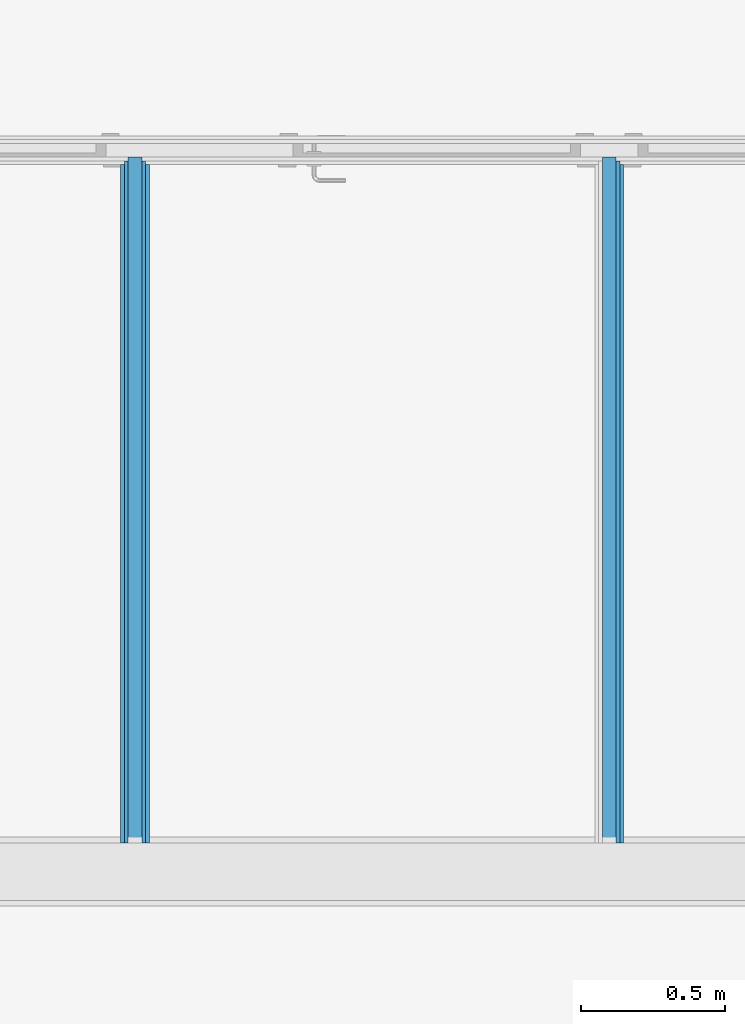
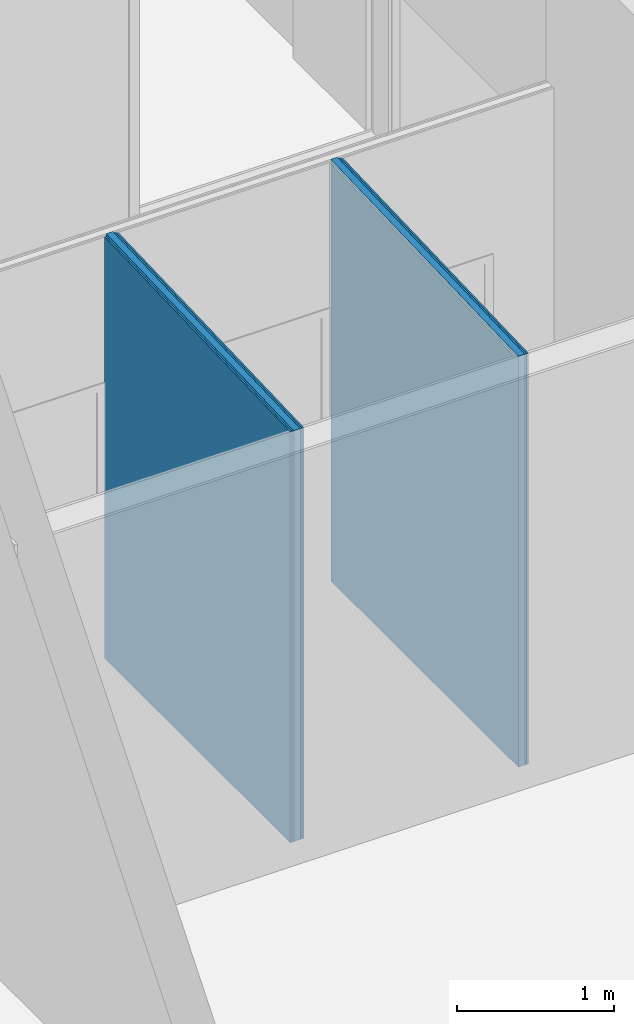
# One storey, part 21 of 34: 8 building element parts, 2 elements without a shape of their own.
"""IFC2X3 building model written with IfcOpenShell, lengths in metres."""

from ifc_helpers import new_model, entity, si_unit, converted_unit, derived_unit, money_unit, direction, frame, origin_with_axes, place, context, subcontext, project, spatial, polyline, outline, extrude, boolean, faceted_brep, material, type_object, element, aggregate, save


model = new_model("IFC2X3")

# Units and contexts
model_context = context("Model", 3, precision=1e-05, world=origin_with_axes(), true_north=direction((0.0, 1.0)))
body_context = subcontext(model_context, "Body", "Model", "MODEL_VIEW")
ifc_project = project(units=[si_unit("LENGTHUNIT", "METRE"), si_unit("AREAUNIT", "SQUARE_METRE"), si_unit("VOLUMEUNIT", "CUBIC_METRE"), converted_unit("PLANEANGLEUNIT", "DEGREE", entity("IfcPlaneAngleMeasure", 0.0174532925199), si_unit("PLANEANGLEUNIT", "RADIAN"), dimensions=[0, 0, 0, 0, 0, 0, 0]), money_unit("CHF"), converted_unit("TIMEUNIT", "Year", entity("IfcTimeMeasure", 31556926.0), si_unit("TIMEUNIT", "SECOND"), dimensions=[0, 0, 1, 0, 0, 0, 0]), si_unit("MASSUNIT", "GRAM", prefix="KILO"), si_unit("THERMODYNAMICTEMPERATUREUNIT", "DEGREE_CELSIUS"), si_unit("LUMINOUSINTENSITYUNIT", "LUMEN"), si_unit("ENERGYUNIT", "JOULE", prefix="MEGA"), derived_unit("THERMALCONDUCTANCEUNIT", [(si_unit("POWERUNIT", "WATT"), 1), (si_unit("LENGTHUNIT", "METRE"), -1), (si_unit("THERMODYNAMICTEMPERATUREUNIT", "KELVIN"), -1)]), derived_unit("SPECIFICHEATCAPACITYUNIT", [(si_unit("ENERGYUNIT", "JOULE"), 1), (si_unit("MASSUNIT", "GRAM", prefix="KILO"), -1), (si_unit("THERMODYNAMICTEMPERATUREUNIT", "KELVIN"), -1)]), derived_unit("MASSDENSITYUNIT", [(si_unit("MASSUNIT", "GRAM", prefix="KILO"), 1), (si_unit("VOLUMEUNIT", "CUBIC_METRE"), -1)])], contexts=[model_context])

# Site, building, storey
site_placement = place(None, origin_with_axes())
site = spatial("IfcSite", under=ifc_project, at=site_placement, Name="Site", CompositionType="ELEMENT")
building_placement = place(site_placement, origin_with_axes())
building = spatial("IfcBuilding", under=site, at=building_placement, Name="Bâtiment", CompositionType="ELEMENT")
storey_placement = place(building_placement, origin_with_axes())
storey = spatial("IfcBuildingStorey", under=building, at=storey_placement, Name="Rez-de-chaussée", CompositionType="ELEMENT", Elevation=0.0)

# Wall, building element parts
wall_type = type_object("IfcWallType", Name="Cloison 100/48 100", PredefinedType="NOTDEFINED")
wall_1_placement = place(storey_placement, frame((22.5794697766, 10.9801256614, 0.0), z_axis=(0.0, 0.0, 1.0), x_axis=(0.0, -1.0, 0.0)))
wall_1 = element("IfcWall", 1, at=wall_1_placement, inside=storey, type_object=wall_type, Name="MUR_EXT-009")
ifc_material_1 = material(Name="Finition int - Plaque de plâtre")
building_element_part_1_placement = place(wall_1_placement, origin_with_axes())
building_element_part_1 = element("IfcBuildingElementPart", 2, at=building_element_part_1_placement, material=ifc_material_1, Name="Finition int - Plaque de plâtre", context=body_context, shape_type="CSG", body=[
    boolean("DIFFERENCE", boolean("DIFFERENCE", boolean("DIFFERENCE", boolean("DIFFERENCE", boolean("DIFFERENCE", extrude(outline(polyline([(0.0, 0.087), (2.68, 0.087), (2.68, 0.1), (0.0, 0.1), (0.0, 0.087)])), origin_with_axes(), (0.0, 0.0, 1.0), 4.0), faceted_brep([(2.46, 0.1, 0.0), (2.46, 0.1, 3.19170439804), (0.1, 0.1, 3.27430439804), (0.1, 0.1, 0.0), (0.0, 0.1, 0.0), (0.0, 0.1, 4.0), (2.68, 0.1, 4.0), (2.68, 0.1, 0.0), (2.46, 0.087, 0.0), (2.46, 0.087, 3.19170439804), (0.1, 0.087, 3.27430439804), (0.1, 0.087, 0.0), (0.0, 0.087, 0.0), (0.0, 0.087, 4.0), (2.68, 0.087, 4.0), (2.68, 0.087, 0.0)], [[[0, 1, 2, 3, 4, 5, 6, 7]], [[1, 0, 8, 9]], [[2, 1, 9, 10]], [[3, 2, 10, 11]], [[3, 11, 12, 4]], [[5, 4, 12, 13]], [[5, 13, 14, 6]], [[14, 15, 7, 6]], [[8, 0, 7, 15]], [[9, 8, 15, 14, 13, 12, 11, 10]]])), faceted_brep([(2.46, 0.087, 3.19170439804), (0.1, 0.087, 3.27430439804), (0.087, 0.087, 3.27475939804), (0.087, 0.087, 0.0), (0.0, 0.087, 0.0), (0.0, 0.087, 4.0), (2.68, 0.087, 4.0), (2.68, 0.087, 0.0), (2.46, 0.087, 0.0), (2.46, 0.074, 3.19170439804), (0.087, 0.074, 3.27475939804), (0.087, 0.074, 0.0), (0.0, 0.074, 0.0), (0.0, 0.074, 4.0), (2.68, 0.074, 4.0), (2.68, 0.074, 0.0), (2.46, 0.074, 0.0)], [[[0, 1, 2, 3, 4, 5, 6, 7, 8]], [[2, 1, 0, 9, 10]], [[3, 2, 10, 11]], [[3, 11, 12, 4]], [[5, 4, 12, 13]], [[5, 13, 14, 6]], [[14, 15, 7, 6]], [[16, 8, 7, 15]], [[0, 8, 16, 9]], [[9, 16, 15, 14, 13, 12, 11, 10]]])), faceted_brep([(2.46, 0.074, 3.19170439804), (0.087, 0.074, 3.27475939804), (0.074, 0.074, 3.27521439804), (0.074, 0.074, 0.0), (0.0, 0.074, 0.0), (0.0, 0.074, 4.0), (2.68, 0.074, 4.0), (2.68, 0.074, 0.0), (2.46, 0.074, 0.0), (2.46, 0.026, 3.19170439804), (0.087, 0.026, 3.27475939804), (0.074, 0.026, 3.27521439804), (0.074, 0.026, 0.0), (0.0, 0.026, 0.0), (0.0, 0.026, 4.0), (2.68, 0.026, 4.0), (2.68, 0.026, 0.0), (2.46, 0.026, 0.0)], [[[0, 1, 2, 3, 4, 5, 6, 7, 8]], [[2, 1, 0, 9, 10, 11]], [[3, 2, 11, 12]], [[3, 12, 13, 4]], [[5, 4, 13, 14]], [[5, 14, 15, 6]], [[15, 16, 7, 6]], [[17, 8, 7, 16]], [[8, 17, 9, 0]], [[9, 17, 16, 15, 14, 13, 12, 11, 10]]])), faceted_brep([(2.46, 0.026, 0.0), (2.46, 0.026, 3.19170439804), (0.087, 0.026, 3.27475939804), (0.087, 0.026, 0.0), (0.0, 0.026, 0.0), (0.0, 0.026, 4.0), (2.68, 0.026, 4.0), (2.68, 0.026, 0.0), (2.46, 0.013, 0.0), (2.46, 0.013, 3.19170439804), (0.1, 0.013, 3.27430439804), (0.087, 0.013, 3.27475939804), (0.087, 0.013, 0.0), (0.0, 0.013, 0.0), (0.0, 0.013, 4.0), (2.68, 0.013, 4.0), (2.68, 0.013, 0.0)], [[[0, 1, 2, 3, 4, 5, 6, 7]], [[0, 8, 9, 1]], [[2, 1, 9, 10, 11]], [[3, 2, 11, 12]], [[3, 12, 13, 4]], [[5, 4, 13, 14]], [[5, 14, 15, 6]], [[15, 16, 7, 6]], [[8, 0, 7, 16]], [[9, 8, 16, 15, 14, 13, 12, 11, 10]]])), faceted_brep([(2.46, 0.013, 0.0), (2.46, 0.013, 3.19170439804), (0.1, 0.013, 3.27430439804), (0.1, 0.013, 0.0), (0.0, 0.013, 0.0), (0.0, 0.013, 4.0), (2.68, 0.013, 4.0), (2.68, 0.013, 0.0), (2.46, 0.0, 0.0), (2.46, 0.0, 3.19170439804), (0.1, 0.0, 3.27430439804), (0.1, 0.0, 0.0), (0.0, 0.0, 0.0), (0.0, 0.0, 4.0), (2.68, 0.0, 4.0), (2.68, 0.0, 0.0)], [[[0, 1, 2, 3, 4, 5, 6, 7]], [[1, 0, 8, 9]], [[2, 1, 9, 10]], [[3, 2, 10, 11]], [[3, 11, 12, 4]], [[5, 4, 12, 13]], [[5, 13, 14, 6]], [[14, 15, 7, 6]], [[8, 0, 7, 15]], [[9, 8, 15, 14, 13, 12, 11, 10]]])),
])
building_element_part_2_placement = place(wall_1_placement, origin_with_axes())
building_element_part_2 = element("IfcBuildingElementPart", 3, at=building_element_part_2_placement, material=ifc_material_1, Name="Finition int - Plaque de plâtre", context=body_context, shape_type="CSG", body=[
    boolean("DIFFERENCE", boolean("DIFFERENCE", boolean("DIFFERENCE", boolean("DIFFERENCE", boolean("DIFFERENCE", extrude(outline(polyline([(0.0, 0.074), (2.68, 0.074), (2.68, 0.087), (0.0, 0.087), (0.0, 0.074)])), origin_with_axes(), (0.0, 0.0, 1.0), 4.0), faceted_brep([(2.46, 0.1, 0.0), (2.46, 0.1, 3.19170439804), (0.1, 0.1, 3.27430439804), (0.1, 0.1, 0.0), (0.0, 0.1, 0.0), (0.0, 0.1, 4.0), (2.68, 0.1, 4.0), (2.68, 0.1, 0.0), (2.46, 0.087, 0.0), (2.46, 0.087, 3.19170439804), (0.1, 0.087, 3.27430439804), (0.1, 0.087, 0.0), (0.0, 0.087, 0.0), (0.0, 0.087, 4.0), (2.68, 0.087, 4.0), (2.68, 0.087, 0.0)], [[[0, 1, 2, 3, 4, 5, 6, 7]], [[1, 0, 8, 9]], [[2, 1, 9, 10]], [[3, 2, 10, 11]], [[3, 11, 12, 4]], [[5, 4, 12, 13]], [[5, 13, 14, 6]], [[14, 15, 7, 6]], [[8, 0, 7, 15]], [[9, 8, 15, 14, 13, 12, 11, 10]]])), faceted_brep([(2.46, 0.087, 3.19170439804), (0.1, 0.087, 3.27430439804), (0.087, 0.087, 3.27475939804), (0.087, 0.087, 0.0), (0.0, 0.087, 0.0), (0.0, 0.087, 4.0), (2.68, 0.087, 4.0), (2.68, 0.087, 0.0), (2.46, 0.087, 0.0), (2.46, 0.074, 3.19170439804), (0.087, 0.074, 3.27475939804), (0.087, 0.074, 0.0), (0.0, 0.074, 0.0), (0.0, 0.074, 4.0), (2.68, 0.074, 4.0), (2.68, 0.074, 0.0), (2.46, 0.074, 0.0)], [[[0, 1, 2, 3, 4, 5, 6, 7, 8]], [[2, 1, 0, 9, 10]], [[3, 2, 10, 11]], [[3, 11, 12, 4]], [[5, 4, 12, 13]], [[5, 13, 14, 6]], [[14, 15, 7, 6]], [[16, 8, 7, 15]], [[0, 8, 16, 9]], [[9, 16, 15, 14, 13, 12, 11, 10]]])), faceted_brep([(2.46, 0.074, 3.19170439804), (0.087, 0.074, 3.27475939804), (0.074, 0.074, 3.27521439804), (0.074, 0.074, 0.0), (0.0, 0.074, 0.0), (0.0, 0.074, 4.0), (2.68, 0.074, 4.0), (2.68, 0.074, 0.0), (2.46, 0.074, 0.0), (2.46, 0.026, 3.19170439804), (0.087, 0.026, 3.27475939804), (0.074, 0.026, 3.27521439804), (0.074, 0.026, 0.0), (0.0, 0.026, 0.0), (0.0, 0.026, 4.0), (2.68, 0.026, 4.0), (2.68, 0.026, 0.0), (2.46, 0.026, 0.0)], [[[0, 1, 2, 3, 4, 5, 6, 7, 8]], [[2, 1, 0, 9, 10, 11]], [[3, 2, 11, 12]], [[3, 12, 13, 4]], [[5, 4, 13, 14]], [[5, 14, 15, 6]], [[15, 16, 7, 6]], [[17, 8, 7, 16]], [[8, 17, 9, 0]], [[9, 17, 16, 15, 14, 13, 12, 11, 10]]])), faceted_brep([(2.46, 0.026, 0.0), (2.46, 0.026, 3.19170439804), (0.087, 0.026, 3.27475939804), (0.087, 0.026, 0.0), (0.0, 0.026, 0.0), (0.0, 0.026, 4.0), (2.68, 0.026, 4.0), (2.68, 0.026, 0.0), (2.46, 0.013, 0.0), (2.46, 0.013, 3.19170439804), (0.1, 0.013, 3.27430439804), (0.087, 0.013, 3.27475939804), (0.087, 0.013, 0.0), (0.0, 0.013, 0.0), (0.0, 0.013, 4.0), (2.68, 0.013, 4.0), (2.68, 0.013, 0.0)], [[[0, 1, 2, 3, 4, 5, 6, 7]], [[0, 8, 9, 1]], [[2, 1, 9, 10, 11]], [[3, 2, 11, 12]], [[3, 12, 13, 4]], [[5, 4, 13, 14]], [[5, 14, 15, 6]], [[15, 16, 7, 6]], [[8, 0, 7, 16]], [[9, 8, 16, 15, 14, 13, 12, 11, 10]]])), faceted_brep([(2.46, 0.013, 0.0), (2.46, 0.013, 3.19170439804), (0.1, 0.013, 3.27430439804), (0.1, 0.013, 0.0), (0.0, 0.013, 0.0), (0.0, 0.013, 4.0), (2.68, 0.013, 4.0), (2.68, 0.013, 0.0), (2.46, 0.0, 0.0), (2.46, 0.0, 3.19170439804), (0.1, 0.0, 3.27430439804), (0.1, 0.0, 0.0), (0.0, 0.0, 0.0), (0.0, 0.0, 4.0), (2.68, 0.0, 4.0), (2.68, 0.0, 0.0)], [[[0, 1, 2, 3, 4, 5, 6, 7]], [[1, 0, 8, 9]], [[2, 1, 9, 10]], [[3, 2, 10, 11]], [[3, 11, 12, 4]], [[5, 4, 12, 13]], [[5, 13, 14, 6]], [[14, 15, 7, 6]], [[8, 0, 7, 15]], [[9, 8, 15, 14, 13, 12, 11, 10]]])),
])
ifc_material_2 = material(Name="Isolation - Laine de verre")
building_element_part_3_placement = place(wall_1_placement, origin_with_axes())
building_element_part_3 = element("IfcBuildingElementPart", 4, at=building_element_part_3_placement, material=ifc_material_2, Name="Isolation - Laine de verre", context=body_context, shape_type="CSG", body=[
    boolean("DIFFERENCE", boolean("DIFFERENCE", boolean("DIFFERENCE", boolean("DIFFERENCE", boolean("DIFFERENCE", extrude(outline(polyline([(0.0, 0.026), (2.68, 0.026), (2.68, 0.074), (0.0, 0.074), (0.0, 0.026)])), origin_with_axes(), (0.0, 0.0, 1.0), 4.0), faceted_brep([(2.46, 0.1, 0.0), (2.46, 0.1, 3.19170439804), (0.1, 0.1, 3.27430439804), (0.1, 0.1, 0.0), (0.0, 0.1, 0.0), (0.0, 0.1, 4.0), (2.68, 0.1, 4.0), (2.68, 0.1, 0.0), (2.46, 0.087, 0.0), (2.46, 0.087, 3.19170439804), (0.1, 0.087, 3.27430439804), (0.1, 0.087, 0.0), (0.0, 0.087, 0.0), (0.0, 0.087, 4.0), (2.68, 0.087, 4.0), (2.68, 0.087, 0.0)], [[[0, 1, 2, 3, 4, 5, 6, 7]], [[1, 0, 8, 9]], [[2, 1, 9, 10]], [[3, 2, 10, 11]], [[3, 11, 12, 4]], [[5, 4, 12, 13]], [[5, 13, 14, 6]], [[14, 15, 7, 6]], [[8, 0, 7, 15]], [[9, 8, 15, 14, 13, 12, 11, 10]]])), faceted_brep([(2.46, 0.087, 3.19170439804), (0.1, 0.087, 3.27430439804), (0.087, 0.087, 3.27475939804), (0.087, 0.087, 0.0), (0.0, 0.087, 0.0), (0.0, 0.087, 4.0), (2.68, 0.087, 4.0), (2.68, 0.087, 0.0), (2.46, 0.087, 0.0), (2.46, 0.074, 3.19170439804), (0.087, 0.074, 3.27475939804), (0.087, 0.074, 0.0), (0.0, 0.074, 0.0), (0.0, 0.074, 4.0), (2.68, 0.074, 4.0), (2.68, 0.074, 0.0), (2.46, 0.074, 0.0)], [[[0, 1, 2, 3, 4, 5, 6, 7, 8]], [[2, 1, 0, 9, 10]], [[3, 2, 10, 11]], [[3, 11, 12, 4]], [[5, 4, 12, 13]], [[5, 13, 14, 6]], [[14, 15, 7, 6]], [[16, 8, 7, 15]], [[0, 8, 16, 9]], [[9, 16, 15, 14, 13, 12, 11, 10]]])), faceted_brep([(2.46, 0.074, 3.19170439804), (0.087, 0.074, 3.27475939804), (0.074, 0.074, 3.27521439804), (0.074, 0.074, 0.0), (0.0, 0.074, 0.0), (0.0, 0.074, 4.0), (2.68, 0.074, 4.0), (2.68, 0.074, 0.0), (2.46, 0.074, 0.0), (2.46, 0.026, 3.19170439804), (0.087, 0.026, 3.27475939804), (0.074, 0.026, 3.27521439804), (0.074, 0.026, 0.0), (0.0, 0.026, 0.0), (0.0, 0.026, 4.0), (2.68, 0.026, 4.0), (2.68, 0.026, 0.0), (2.46, 0.026, 0.0)], [[[0, 1, 2, 3, 4, 5, 6, 7, 8]], [[2, 1, 0, 9, 10, 11]], [[3, 2, 11, 12]], [[3, 12, 13, 4]], [[5, 4, 13, 14]], [[5, 14, 15, 6]], [[15, 16, 7, 6]], [[17, 8, 7, 16]], [[8, 17, 9, 0]], [[9, 17, 16, 15, 14, 13, 12, 11, 10]]])), faceted_brep([(2.46, 0.026, 0.0), (2.46, 0.026, 3.19170439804), (0.087, 0.026, 3.27475939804), (0.087, 0.026, 0.0), (0.0, 0.026, 0.0), (0.0, 0.026, 4.0), (2.68, 0.026, 4.0), (2.68, 0.026, 0.0), (2.46, 0.013, 0.0), (2.46, 0.013, 3.19170439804), (0.1, 0.013, 3.27430439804), (0.087, 0.013, 3.27475939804), (0.087, 0.013, 0.0), (0.0, 0.013, 0.0), (0.0, 0.013, 4.0), (2.68, 0.013, 4.0), (2.68, 0.013, 0.0)], [[[0, 1, 2, 3, 4, 5, 6, 7]], [[0, 8, 9, 1]], [[2, 1, 9, 10, 11]], [[3, 2, 11, 12]], [[3, 12, 13, 4]], [[5, 4, 13, 14]], [[5, 14, 15, 6]], [[15, 16, 7, 6]], [[8, 0, 7, 16]], [[9, 8, 16, 15, 14, 13, 12, 11, 10]]])), faceted_brep([(2.46, 0.013, 0.0), (2.46, 0.013, 3.19170439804), (0.1, 0.013, 3.27430439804), (0.1, 0.013, 0.0), (0.0, 0.013, 0.0), (0.0, 0.013, 4.0), (2.68, 0.013, 4.0), (2.68, 0.013, 0.0), (2.46, 0.0, 0.0), (2.46, 0.0, 3.19170439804), (0.1, 0.0, 3.27430439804), (0.1, 0.0, 0.0), (0.0, 0.0, 0.0), (0.0, 0.0, 4.0), (2.68, 0.0, 4.0), (2.68, 0.0, 0.0)], [[[0, 1, 2, 3, 4, 5, 6, 7]], [[1, 0, 8, 9]], [[2, 1, 9, 10]], [[3, 2, 10, 11]], [[3, 11, 12, 4]], [[5, 4, 12, 13]], [[5, 13, 14, 6]], [[14, 15, 7, 6]], [[8, 0, 7, 15]], [[9, 8, 15, 14, 13, 12, 11, 10]]])),
])
aggregate(wall_1, [building_element_part_1, building_element_part_2, building_element_part_3])

wall_2_placement = place(storey_placement, frame((20.9294697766, 10.9801256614, 0.0), z_axis=(0.0, 0.0, 1.0), x_axis=(0.0, -1.0, 0.0)))
wall_2 = element("IfcWall", 5, at=wall_2_placement, inside=storey, type_object=wall_type, Name="MUR_EXT-008")
building_element_part_4_placement = place(wall_2_placement, origin_with_axes())
building_element_part_4 = element("IfcBuildingElementPart", 6, at=building_element_part_4_placement, material=ifc_material_1, Name="Finition int - Plaque de plâtre", context=body_context, shape_type="CSG", body=[
    boolean("DIFFERENCE", boolean("DIFFERENCE", boolean("DIFFERENCE", boolean("DIFFERENCE", boolean("DIFFERENCE", extrude(outline(polyline([(0.0, 0.087), (2.68, 0.087), (2.68, 0.1), (0.0, 0.1), (0.0, 0.087)])), origin_with_axes(), (0.0, 0.0, 1.0), 4.0), faceted_brep([(2.46, 0.1, 0.0), (2.46, 0.1, 3.19170439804), (0.1, 0.1, 3.27430439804), (0.1, 0.1, 0.0), (0.0, 0.1, 0.0), (0.0, 0.1, 4.0), (2.68, 0.1, 4.0), (2.68, 0.1, 0.0), (2.46, 0.087, 0.0), (2.46, 0.087, 3.19170439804), (0.1, 0.087, 3.27430439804), (0.1, 0.087, 0.0), (0.0, 0.087, 0.0), (0.0, 0.087, 4.0), (2.68, 0.087, 4.0), (2.68, 0.087, 0.0)], [[[0, 1, 2, 3, 4, 5, 6, 7]], [[1, 0, 8, 9]], [[2, 1, 9, 10]], [[3, 2, 10, 11]], [[3, 11, 12, 4]], [[5, 4, 12, 13]], [[5, 13, 14, 6]], [[14, 15, 7, 6]], [[8, 0, 7, 15]], [[9, 8, 15, 14, 13, 12, 11, 10]]])), faceted_brep([(2.46, 0.087, 3.19170439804), (0.1, 0.087, 3.27430439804), (0.087, 0.087, 3.27475939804), (0.087, 0.087, 0.0), (0.0, 0.087, 0.0), (0.0, 0.087, 4.0), (2.68, 0.087, 4.0), (2.68, 0.087, 0.0), (2.46, 0.087, 0.0), (2.46, 0.074, 3.19170439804), (0.087, 0.074, 3.27475939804), (0.087, 0.074, 0.0), (0.0, 0.074, 0.0), (0.0, 0.074, 4.0), (2.68, 0.074, 4.0), (2.68, 0.074, 0.0), (2.46, 0.074, 0.0)], [[[0, 1, 2, 3, 4, 5, 6, 7, 8]], [[2, 1, 0, 9, 10]], [[3, 2, 10, 11]], [[3, 11, 12, 4]], [[5, 4, 12, 13]], [[5, 13, 14, 6]], [[14, 15, 7, 6]], [[16, 8, 7, 15]], [[0, 8, 16, 9]], [[9, 16, 15, 14, 13, 12, 11, 10]]])), faceted_brep([(2.46, 0.074, 3.19170439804), (0.087, 0.074, 3.27475939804), (0.074, 0.074, 3.27521439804), (0.074, 0.074, 0.0), (0.0, 0.074, 0.0), (0.0, 0.074, 4.0), (2.68, 0.074, 4.0), (2.68, 0.074, 0.0), (2.46, 0.074, 0.0), (2.46, 0.026, 3.19170439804), (0.087, 0.026, 3.27475939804), (0.074, 0.026, 3.27521439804), (0.074, 0.026, 0.0), (0.0, 0.026, 0.0), (0.0, 0.026, 4.0), (2.68, 0.026, 4.0), (2.68, 0.026, 0.0), (2.46, 0.026, 0.0)], [[[0, 1, 2, 3, 4, 5, 6, 7, 8]], [[2, 1, 0, 9, 10, 11]], [[3, 2, 11, 12]], [[3, 12, 13, 4]], [[5, 4, 13, 14]], [[5, 14, 15, 6]], [[15, 16, 7, 6]], [[17, 8, 7, 16]], [[8, 17, 9, 0]], [[9, 17, 16, 15, 14, 13, 12, 11, 10]]])), faceted_brep([(2.46, 0.026, 0.0), (2.46, 0.026, 3.19170439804), (0.087, 0.026, 3.27475939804), (0.087, 0.026, 0.0), (0.0, 0.026, 0.0), (0.0, 0.026, 4.0), (2.68, 0.026, 4.0), (2.68, 0.026, 0.0), (2.46, 0.013, 0.0), (2.46, 0.013, 3.19170439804), (0.1, 0.013, 3.27430439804), (0.087, 0.013, 3.27475939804), (0.087, 0.013, 0.0), (0.0, 0.013, 0.0), (0.0, 0.013, 4.0), (2.68, 0.013, 4.0), (2.68, 0.013, 0.0)], [[[0, 1, 2, 3, 4, 5, 6, 7]], [[0, 8, 9, 1]], [[2, 1, 9, 10, 11]], [[3, 2, 11, 12]], [[3, 12, 13, 4]], [[5, 4, 13, 14]], [[5, 14, 15, 6]], [[15, 16, 7, 6]], [[8, 0, 7, 16]], [[9, 8, 16, 15, 14, 13, 12, 11, 10]]])), faceted_brep([(2.46, 0.013, 0.0), (2.46, 0.013, 3.19170439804), (0.1, 0.013, 3.27430439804), (0.1, 0.013, 0.0), (0.0, 0.013, 0.0), (0.0, 0.013, 4.0), (2.68, 0.013, 4.0), (2.68, 0.013, 0.0), (2.46, 0.0, 0.0), (2.46, 0.0, 3.19170439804), (0.1, 0.0, 3.27430439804), (0.1, 0.0, 0.0), (0.0, 0.0, 0.0), (0.0, 0.0, 4.0), (2.68, 0.0, 4.0), (2.68, 0.0, 0.0)], [[[0, 1, 2, 3, 4, 5, 6, 7]], [[1, 0, 8, 9]], [[2, 1, 9, 10]], [[3, 2, 10, 11]], [[3, 11, 12, 4]], [[5, 4, 12, 13]], [[5, 13, 14, 6]], [[14, 15, 7, 6]], [[8, 0, 7, 15]], [[9, 8, 15, 14, 13, 12, 11, 10]]])),
])
building_element_part_5_placement = place(wall_2_placement, origin_with_axes())
building_element_part_5 = element("IfcBuildingElementPart", 7, at=building_element_part_5_placement, material=ifc_material_1, Name="Finition int - Plaque de plâtre", context=body_context, shape_type="CSG", body=[
    boolean("DIFFERENCE", boolean("DIFFERENCE", boolean("DIFFERENCE", boolean("DIFFERENCE", boolean("DIFFERENCE", extrude(outline(polyline([(0.0, 0.074), (2.68, 0.074), (2.68, 0.087), (0.0, 0.087), (0.0, 0.074)])), origin_with_axes(), (0.0, 0.0, 1.0), 4.0), faceted_brep([(2.46, 0.1, 0.0), (2.46, 0.1, 3.19170439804), (0.1, 0.1, 3.27430439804), (0.1, 0.1, 0.0), (0.0, 0.1, 0.0), (0.0, 0.1, 4.0), (2.68, 0.1, 4.0), (2.68, 0.1, 0.0), (2.46, 0.087, 0.0), (2.46, 0.087, 3.19170439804), (0.1, 0.087, 3.27430439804), (0.1, 0.087, 0.0), (0.0, 0.087, 0.0), (0.0, 0.087, 4.0), (2.68, 0.087, 4.0), (2.68, 0.087, 0.0)], [[[0, 1, 2, 3, 4, 5, 6, 7]], [[1, 0, 8, 9]], [[2, 1, 9, 10]], [[3, 2, 10, 11]], [[3, 11, 12, 4]], [[5, 4, 12, 13]], [[5, 13, 14, 6]], [[14, 15, 7, 6]], [[8, 0, 7, 15]], [[9, 8, 15, 14, 13, 12, 11, 10]]])), faceted_brep([(2.46, 0.087, 3.19170439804), (0.1, 0.087, 3.27430439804), (0.087, 0.087, 3.27475939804), (0.087, 0.087, 0.0), (0.0, 0.087, 0.0), (0.0, 0.087, 4.0), (2.68, 0.087, 4.0), (2.68, 0.087, 0.0), (2.46, 0.087, 0.0), (2.46, 0.074, 3.19170439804), (0.087, 0.074, 3.27475939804), (0.087, 0.074, 0.0), (0.0, 0.074, 0.0), (0.0, 0.074, 4.0), (2.68, 0.074, 4.0), (2.68, 0.074, 0.0), (2.46, 0.074, 0.0)], [[[0, 1, 2, 3, 4, 5, 6, 7, 8]], [[2, 1, 0, 9, 10]], [[3, 2, 10, 11]], [[3, 11, 12, 4]], [[5, 4, 12, 13]], [[5, 13, 14, 6]], [[14, 15, 7, 6]], [[16, 8, 7, 15]], [[0, 8, 16, 9]], [[9, 16, 15, 14, 13, 12, 11, 10]]])), faceted_brep([(2.46, 0.074, 3.19170439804), (0.087, 0.074, 3.27475939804), (0.074, 0.074, 3.27521439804), (0.074, 0.074, 0.0), (0.0, 0.074, 0.0), (0.0, 0.074, 4.0), (2.68, 0.074, 4.0), (2.68, 0.074, 0.0), (2.46, 0.074, 0.0), (2.46, 0.026, 3.19170439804), (0.087, 0.026, 3.27475939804), (0.074, 0.026, 3.27521439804), (0.074, 0.026, 0.0), (0.0, 0.026, 0.0), (0.0, 0.026, 4.0), (2.68, 0.026, 4.0), (2.68, 0.026, 0.0), (2.46, 0.026, 0.0)], [[[0, 1, 2, 3, 4, 5, 6, 7, 8]], [[2, 1, 0, 9, 10, 11]], [[3, 2, 11, 12]], [[3, 12, 13, 4]], [[5, 4, 13, 14]], [[5, 14, 15, 6]], [[15, 16, 7, 6]], [[17, 8, 7, 16]], [[8, 17, 9, 0]], [[9, 17, 16, 15, 14, 13, 12, 11, 10]]])), faceted_brep([(2.46, 0.026, 0.0), (2.46, 0.026, 3.19170439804), (0.087, 0.026, 3.27475939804), (0.087, 0.026, 0.0), (0.0, 0.026, 0.0), (0.0, 0.026, 4.0), (2.68, 0.026, 4.0), (2.68, 0.026, 0.0), (2.46, 0.013, 0.0), (2.46, 0.013, 3.19170439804), (0.1, 0.013, 3.27430439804), (0.087, 0.013, 3.27475939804), (0.087, 0.013, 0.0), (0.0, 0.013, 0.0), (0.0, 0.013, 4.0), (2.68, 0.013, 4.0), (2.68, 0.013, 0.0)], [[[0, 1, 2, 3, 4, 5, 6, 7]], [[0, 8, 9, 1]], [[2, 1, 9, 10, 11]], [[3, 2, 11, 12]], [[3, 12, 13, 4]], [[5, 4, 13, 14]], [[5, 14, 15, 6]], [[15, 16, 7, 6]], [[8, 0, 7, 16]], [[9, 8, 16, 15, 14, 13, 12, 11, 10]]])), faceted_brep([(2.46, 0.013, 0.0), (2.46, 0.013, 3.19170439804), (0.1, 0.013, 3.27430439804), (0.1, 0.013, 0.0), (0.0, 0.013, 0.0), (0.0, 0.013, 4.0), (2.68, 0.013, 4.0), (2.68, 0.013, 0.0), (2.46, 0.0, 0.0), (2.46, 0.0, 3.19170439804), (0.1, 0.0, 3.27430439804), (0.1, 0.0, 0.0), (0.0, 0.0, 0.0), (0.0, 0.0, 4.0), (2.68, 0.0, 4.0), (2.68, 0.0, 0.0)], [[[0, 1, 2, 3, 4, 5, 6, 7]], [[1, 0, 8, 9]], [[2, 1, 9, 10]], [[3, 2, 10, 11]], [[3, 11, 12, 4]], [[5, 4, 12, 13]], [[5, 13, 14, 6]], [[14, 15, 7, 6]], [[8, 0, 7, 15]], [[9, 8, 15, 14, 13, 12, 11, 10]]])),
])
building_element_part_6_placement = place(wall_2_placement, origin_with_axes())
building_element_part_6 = element("IfcBuildingElementPart", 8, at=building_element_part_6_placement, material=ifc_material_2, Name="Isolation - Laine de verre", context=body_context, shape_type="CSG", body=[
    boolean("DIFFERENCE", boolean("DIFFERENCE", boolean("DIFFERENCE", boolean("DIFFERENCE", boolean("DIFFERENCE", extrude(outline(polyline([(0.0, 0.026), (2.68, 0.026), (2.68, 0.074), (0.0, 0.074), (0.0, 0.026)])), origin_with_axes(), (0.0, 0.0, 1.0), 4.0), faceted_brep([(2.46, 0.1, 0.0), (2.46, 0.1, 3.19170439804), (0.1, 0.1, 3.27430439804), (0.1, 0.1, 0.0), (0.0, 0.1, 0.0), (0.0, 0.1, 4.0), (2.68, 0.1, 4.0), (2.68, 0.1, 0.0), (2.46, 0.087, 0.0), (2.46, 0.087, 3.19170439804), (0.1, 0.087, 3.27430439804), (0.1, 0.087, 0.0), (0.0, 0.087, 0.0), (0.0, 0.087, 4.0), (2.68, 0.087, 4.0), (2.68, 0.087, 0.0)], [[[0, 1, 2, 3, 4, 5, 6, 7]], [[1, 0, 8, 9]], [[2, 1, 9, 10]], [[3, 2, 10, 11]], [[3, 11, 12, 4]], [[5, 4, 12, 13]], [[5, 13, 14, 6]], [[14, 15, 7, 6]], [[8, 0, 7, 15]], [[9, 8, 15, 14, 13, 12, 11, 10]]])), faceted_brep([(2.46, 0.087, 3.19170439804), (0.1, 0.087, 3.27430439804), (0.087, 0.087, 3.27475939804), (0.087, 0.087, 0.0), (0.0, 0.087, 0.0), (0.0, 0.087, 4.0), (2.68, 0.087, 4.0), (2.68, 0.087, 0.0), (2.46, 0.087, 0.0), (2.46, 0.074, 3.19170439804), (0.087, 0.074, 3.27475939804), (0.087, 0.074, 0.0), (0.0, 0.074, 0.0), (0.0, 0.074, 4.0), (2.68, 0.074, 4.0), (2.68, 0.074, 0.0), (2.46, 0.074, 0.0)], [[[0, 1, 2, 3, 4, 5, 6, 7, 8]], [[2, 1, 0, 9, 10]], [[3, 2, 10, 11]], [[3, 11, 12, 4]], [[5, 4, 12, 13]], [[5, 13, 14, 6]], [[14, 15, 7, 6]], [[16, 8, 7, 15]], [[0, 8, 16, 9]], [[9, 16, 15, 14, 13, 12, 11, 10]]])), faceted_brep([(2.46, 0.074, 3.19170439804), (0.087, 0.074, 3.27475939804), (0.074, 0.074, 3.27521439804), (0.074, 0.074, 0.0), (0.0, 0.074, 0.0), (0.0, 0.074, 4.0), (2.68, 0.074, 4.0), (2.68, 0.074, 0.0), (2.46, 0.074, 0.0), (2.46, 0.026, 3.19170439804), (0.087, 0.026, 3.27475939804), (0.074, 0.026, 3.27521439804), (0.074, 0.026, 0.0), (0.0, 0.026, 0.0), (0.0, 0.026, 4.0), (2.68, 0.026, 4.0), (2.68, 0.026, 0.0), (2.46, 0.026, 0.0)], [[[0, 1, 2, 3, 4, 5, 6, 7, 8]], [[2, 1, 0, 9, 10, 11]], [[3, 2, 11, 12]], [[3, 12, 13, 4]], [[5, 4, 13, 14]], [[5, 14, 15, 6]], [[15, 16, 7, 6]], [[17, 8, 7, 16]], [[8, 17, 9, 0]], [[9, 17, 16, 15, 14, 13, 12, 11, 10]]])), faceted_brep([(2.46, 0.026, 0.0), (2.46, 0.026, 3.19170439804), (0.087, 0.026, 3.27475939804), (0.087, 0.026, 0.0), (0.0, 0.026, 0.0), (0.0, 0.026, 4.0), (2.68, 0.026, 4.0), (2.68, 0.026, 0.0), (2.46, 0.013, 0.0), (2.46, 0.013, 3.19170439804), (0.1, 0.013, 3.27430439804), (0.087, 0.013, 3.27475939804), (0.087, 0.013, 0.0), (0.0, 0.013, 0.0), (0.0, 0.013, 4.0), (2.68, 0.013, 4.0), (2.68, 0.013, 0.0)], [[[0, 1, 2, 3, 4, 5, 6, 7]], [[0, 8, 9, 1]], [[2, 1, 9, 10, 11]], [[3, 2, 11, 12]], [[3, 12, 13, 4]], [[5, 4, 13, 14]], [[5, 14, 15, 6]], [[15, 16, 7, 6]], [[8, 0, 7, 16]], [[9, 8, 16, 15, 14, 13, 12, 11, 10]]])), faceted_brep([(2.46, 0.013, 0.0), (2.46, 0.013, 3.19170439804), (0.1, 0.013, 3.27430439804), (0.1, 0.013, 0.0), (0.0, 0.013, 0.0), (0.0, 0.013, 4.0), (2.68, 0.013, 4.0), (2.68, 0.013, 0.0), (2.46, 0.0, 0.0), (2.46, 0.0, 3.19170439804), (0.1, 0.0, 3.27430439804), (0.1, 0.0, 0.0), (0.0, 0.0, 0.0), (0.0, 0.0, 4.0), (2.68, 0.0, 4.0), (2.68, 0.0, 0.0)], [[[0, 1, 2, 3, 4, 5, 6, 7]], [[1, 0, 8, 9]], [[2, 1, 9, 10]], [[3, 2, 10, 11]], [[3, 11, 12, 4]], [[5, 4, 12, 13]], [[5, 13, 14, 6]], [[14, 15, 7, 6]], [[8, 0, 7, 15]], [[9, 8, 15, 14, 13, 12, 11, 10]]])),
])
building_element_part_7_placement = place(wall_2_placement, origin_with_axes())
building_element_part_7 = element("IfcBuildingElementPart", 9, at=building_element_part_7_placement, material=ifc_material_1, Name="Finition int - Plaque de plâtre", context=body_context, shape_type="CSG", body=[
    boolean("DIFFERENCE", boolean("DIFFERENCE", boolean("DIFFERENCE", boolean("DIFFERENCE", boolean("DIFFERENCE", extrude(outline(polyline([(0.0, 0.013), (2.68, 0.013), (2.68, 0.026), (0.0, 0.026), (0.0, 0.013)])), origin_with_axes(), (0.0, 0.0, 1.0), 4.0), faceted_brep([(2.46, 0.1, 0.0), (2.46, 0.1, 3.19170439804), (0.1, 0.1, 3.27430439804), (0.1, 0.1, 0.0), (0.0, 0.1, 0.0), (0.0, 0.1, 4.0), (2.68, 0.1, 4.0), (2.68, 0.1, 0.0), (2.46, 0.087, 0.0), (2.46, 0.087, 3.19170439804), (0.1, 0.087, 3.27430439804), (0.1, 0.087, 0.0), (0.0, 0.087, 0.0), (0.0, 0.087, 4.0), (2.68, 0.087, 4.0), (2.68, 0.087, 0.0)], [[[0, 1, 2, 3, 4, 5, 6, 7]], [[1, 0, 8, 9]], [[2, 1, 9, 10]], [[3, 2, 10, 11]], [[3, 11, 12, 4]], [[5, 4, 12, 13]], [[5, 13, 14, 6]], [[14, 15, 7, 6]], [[8, 0, 7, 15]], [[9, 8, 15, 14, 13, 12, 11, 10]]])), faceted_brep([(2.46, 0.087, 3.19170439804), (0.1, 0.087, 3.27430439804), (0.087, 0.087, 3.27475939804), (0.087, 0.087, 0.0), (0.0, 0.087, 0.0), (0.0, 0.087, 4.0), (2.68, 0.087, 4.0), (2.68, 0.087, 0.0), (2.46, 0.087, 0.0), (2.46, 0.074, 3.19170439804), (0.087, 0.074, 3.27475939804), (0.087, 0.074, 0.0), (0.0, 0.074, 0.0), (0.0, 0.074, 4.0), (2.68, 0.074, 4.0), (2.68, 0.074, 0.0), (2.46, 0.074, 0.0)], [[[0, 1, 2, 3, 4, 5, 6, 7, 8]], [[2, 1, 0, 9, 10]], [[3, 2, 10, 11]], [[3, 11, 12, 4]], [[5, 4, 12, 13]], [[5, 13, 14, 6]], [[14, 15, 7, 6]], [[16, 8, 7, 15]], [[0, 8, 16, 9]], [[9, 16, 15, 14, 13, 12, 11, 10]]])), faceted_brep([(2.46, 0.074, 3.19170439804), (0.087, 0.074, 3.27475939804), (0.074, 0.074, 3.27521439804), (0.074, 0.074, 0.0), (0.0, 0.074, 0.0), (0.0, 0.074, 4.0), (2.68, 0.074, 4.0), (2.68, 0.074, 0.0), (2.46, 0.074, 0.0), (2.46, 0.026, 3.19170439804), (0.087, 0.026, 3.27475939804), (0.074, 0.026, 3.27521439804), (0.074, 0.026, 0.0), (0.0, 0.026, 0.0), (0.0, 0.026, 4.0), (2.68, 0.026, 4.0), (2.68, 0.026, 0.0), (2.46, 0.026, 0.0)], [[[0, 1, 2, 3, 4, 5, 6, 7, 8]], [[2, 1, 0, 9, 10, 11]], [[3, 2, 11, 12]], [[3, 12, 13, 4]], [[5, 4, 13, 14]], [[5, 14, 15, 6]], [[15, 16, 7, 6]], [[17, 8, 7, 16]], [[8, 17, 9, 0]], [[9, 17, 16, 15, 14, 13, 12, 11, 10]]])), faceted_brep([(2.46, 0.026, 0.0), (2.46, 0.026, 3.19170439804), (0.087, 0.026, 3.27475939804), (0.087, 0.026, 0.0), (0.0, 0.026, 0.0), (0.0, 0.026, 4.0), (2.68, 0.026, 4.0), (2.68, 0.026, 0.0), (2.46, 0.013, 0.0), (2.46, 0.013, 3.19170439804), (0.1, 0.013, 3.27430439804), (0.087, 0.013, 3.27475939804), (0.087, 0.013, 0.0), (0.0, 0.013, 0.0), (0.0, 0.013, 4.0), (2.68, 0.013, 4.0), (2.68, 0.013, 0.0)], [[[0, 1, 2, 3, 4, 5, 6, 7]], [[0, 8, 9, 1]], [[2, 1, 9, 10, 11]], [[3, 2, 11, 12]], [[3, 12, 13, 4]], [[5, 4, 13, 14]], [[5, 14, 15, 6]], [[15, 16, 7, 6]], [[8, 0, 7, 16]], [[9, 8, 16, 15, 14, 13, 12, 11, 10]]])), faceted_brep([(2.46, 0.013, 0.0), (2.46, 0.013, 3.19170439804), (0.1, 0.013, 3.27430439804), (0.1, 0.013, 0.0), (0.0, 0.013, 0.0), (0.0, 0.013, 4.0), (2.68, 0.013, 4.0), (2.68, 0.013, 0.0), (2.46, 0.0, 0.0), (2.46, 0.0, 3.19170439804), (0.1, 0.0, 3.27430439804), (0.1, 0.0, 0.0), (0.0, 0.0, 0.0), (0.0, 0.0, 4.0), (2.68, 0.0, 4.0), (2.68, 0.0, 0.0)], [[[0, 1, 2, 3, 4, 5, 6, 7]], [[1, 0, 8, 9]], [[2, 1, 9, 10]], [[3, 2, 10, 11]], [[3, 11, 12, 4]], [[5, 4, 12, 13]], [[5, 13, 14, 6]], [[14, 15, 7, 6]], [[8, 0, 7, 15]], [[9, 8, 15, 14, 13, 12, 11, 10]]])),
])
building_element_part_8_placement = place(wall_2_placement, origin_with_axes())
building_element_part_8 = element("IfcBuildingElementPart", 10, at=building_element_part_8_placement, material=ifc_material_1, Name="Finition int - Plaque de plâtre", context=body_context, shape_type="CSG", body=[
    boolean("DIFFERENCE", boolean("DIFFERENCE", boolean("DIFFERENCE", boolean("DIFFERENCE", boolean("DIFFERENCE", extrude(outline(polyline([(0.0, 0.0), (2.68, 0.0), (2.68, 0.013), (0.0, 0.013), (0.0, 0.0)])), origin_with_axes(), (0.0, 0.0, 1.0), 4.0), faceted_brep([(2.46, 0.1, 0.0), (2.46, 0.1, 3.19170439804), (0.1, 0.1, 3.27430439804), (0.1, 0.1, 0.0), (0.0, 0.1, 0.0), (0.0, 0.1, 4.0), (2.68, 0.1, 4.0), (2.68, 0.1, 0.0), (2.46, 0.087, 0.0), (2.46, 0.087, 3.19170439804), (0.1, 0.087, 3.27430439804), (0.1, 0.087, 0.0), (0.0, 0.087, 0.0), (0.0, 0.087, 4.0), (2.68, 0.087, 4.0), (2.68, 0.087, 0.0)], [[[0, 1, 2, 3, 4, 5, 6, 7]], [[1, 0, 8, 9]], [[2, 1, 9, 10]], [[3, 2, 10, 11]], [[3, 11, 12, 4]], [[5, 4, 12, 13]], [[5, 13, 14, 6]], [[14, 15, 7, 6]], [[8, 0, 7, 15]], [[9, 8, 15, 14, 13, 12, 11, 10]]])), faceted_brep([(2.46, 0.087, 3.19170439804), (0.1, 0.087, 3.27430439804), (0.087, 0.087, 3.27475939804), (0.087, 0.087, 0.0), (0.0, 0.087, 0.0), (0.0, 0.087, 4.0), (2.68, 0.087, 4.0), (2.68, 0.087, 0.0), (2.46, 0.087, 0.0), (2.46, 0.074, 3.19170439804), (0.087, 0.074, 3.27475939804), (0.087, 0.074, 0.0), (0.0, 0.074, 0.0), (0.0, 0.074, 4.0), (2.68, 0.074, 4.0), (2.68, 0.074, 0.0), (2.46, 0.074, 0.0)], [[[0, 1, 2, 3, 4, 5, 6, 7, 8]], [[2, 1, 0, 9, 10]], [[3, 2, 10, 11]], [[3, 11, 12, 4]], [[5, 4, 12, 13]], [[5, 13, 14, 6]], [[14, 15, 7, 6]], [[16, 8, 7, 15]], [[0, 8, 16, 9]], [[9, 16, 15, 14, 13, 12, 11, 10]]])), faceted_brep([(2.46, 0.074, 3.19170439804), (0.087, 0.074, 3.27475939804), (0.074, 0.074, 3.27521439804), (0.074, 0.074, 0.0), (0.0, 0.074, 0.0), (0.0, 0.074, 4.0), (2.68, 0.074, 4.0), (2.68, 0.074, 0.0), (2.46, 0.074, 0.0), (2.46, 0.026, 3.19170439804), (0.087, 0.026, 3.27475939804), (0.074, 0.026, 3.27521439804), (0.074, 0.026, 0.0), (0.0, 0.026, 0.0), (0.0, 0.026, 4.0), (2.68, 0.026, 4.0), (2.68, 0.026, 0.0), (2.46, 0.026, 0.0)], [[[0, 1, 2, 3, 4, 5, 6, 7, 8]], [[2, 1, 0, 9, 10, 11]], [[3, 2, 11, 12]], [[3, 12, 13, 4]], [[5, 4, 13, 14]], [[5, 14, 15, 6]], [[15, 16, 7, 6]], [[17, 8, 7, 16]], [[8, 17, 9, 0]], [[9, 17, 16, 15, 14, 13, 12, 11, 10]]])), faceted_brep([(2.46, 0.026, 0.0), (2.46, 0.026, 3.19170439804), (0.087, 0.026, 3.27475939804), (0.087, 0.026, 0.0), (0.0, 0.026, 0.0), (0.0, 0.026, 4.0), (2.68, 0.026, 4.0), (2.68, 0.026, 0.0), (2.46, 0.013, 0.0), (2.46, 0.013, 3.19170439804), (0.1, 0.013, 3.27430439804), (0.087, 0.013, 3.27475939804), (0.087, 0.013, 0.0), (0.0, 0.013, 0.0), (0.0, 0.013, 4.0), (2.68, 0.013, 4.0), (2.68, 0.013, 0.0)], [[[0, 1, 2, 3, 4, 5, 6, 7]], [[0, 8, 9, 1]], [[2, 1, 9, 10, 11]], [[3, 2, 11, 12]], [[3, 12, 13, 4]], [[5, 4, 13, 14]], [[5, 14, 15, 6]], [[15, 16, 7, 6]], [[8, 0, 7, 16]], [[9, 8, 16, 15, 14, 13, 12, 11, 10]]])), faceted_brep([(2.46, 0.013, 0.0), (2.46, 0.013, 3.19170439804), (0.1, 0.013, 3.27430439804), (0.1, 0.013, 0.0), (0.0, 0.013, 0.0), (0.0, 0.013, 4.0), (2.68, 0.013, 4.0), (2.68, 0.013, 0.0), (2.46, 0.0, 0.0), (2.46, 0.0, 3.19170439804), (0.1, 0.0, 3.27430439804), (0.1, 0.0, 0.0), (0.0, 0.0, 0.0), (0.0, 0.0, 4.0), (2.68, 0.0, 4.0), (2.68, 0.0, 0.0)], [[[0, 1, 2, 3, 4, 5, 6, 7]], [[1, 0, 8, 9]], [[2, 1, 9, 10]], [[3, 2, 10, 11]], [[3, 11, 12, 4]], [[5, 4, 12, 13]], [[5, 13, 14, 6]], [[14, 15, 7, 6]], [[8, 0, 7, 15]], [[9, 8, 15, 14, 13, 12, 11, 10]]])),
])
aggregate(wall_2, [building_element_part_4, building_element_part_5, building_element_part_6, building_element_part_7, building_element_part_8])

save(model, "model.ifc")
